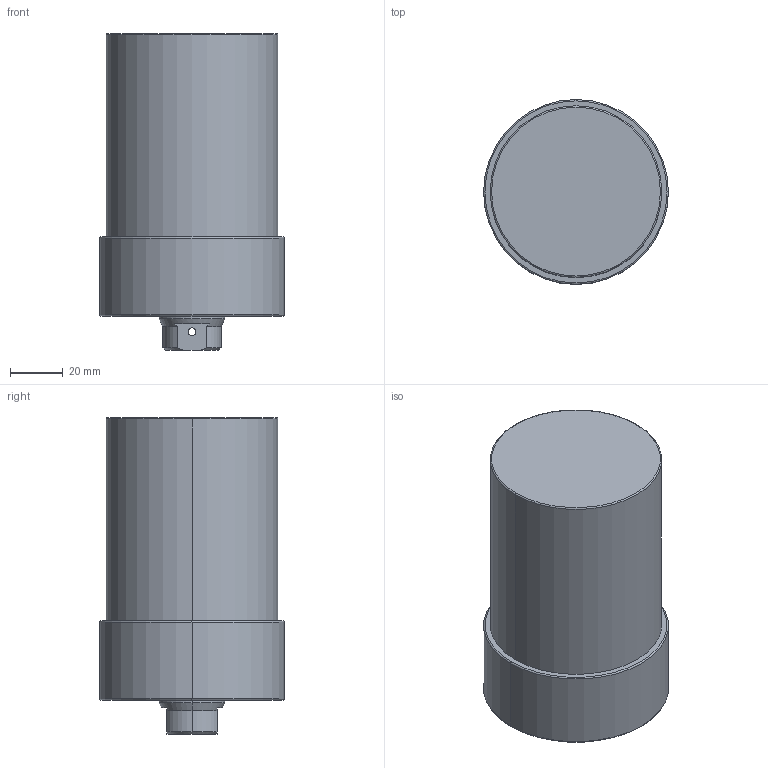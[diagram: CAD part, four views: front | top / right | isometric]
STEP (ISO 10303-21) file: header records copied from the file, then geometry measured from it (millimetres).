
FILE_DESCRIPTION (( 'STEP AP203' ), '1' );
FILE_NAME ('CLLU-065GB-060.STEP', '2020-01-06T08:47:24', ( '' ), ( '' ), 'SwSTEP 2.0', 'SolidWorks 2015', '' );
FILE_SCHEMA (( 'CONFIG_CONTROL_DESIGN' ));
Length unit declared in the file: millimetre
Products named in the file (1): CLLU-065GB-060
Bounding box: 70 x 70 x 120 mm (x, y, z)
Volume: 371437.4 mm3; surface area: 32944.1 mm2
Topology: 1 solids, 1 shells, 68 faces, 157 edges, 90 vertices
Faces by surface type: cylinder 27, cone 25, plane 10, torus 6
Entity records: 2051 total; most frequent: CARTESIAN_POINT 438, DIRECTION 352, ORIENTED_EDGE 294, AXIS2_PLACEMENT_3D 148, EDGE_CURVE 147, VERTEX_POINT 90, EDGE_LOOP 81, CIRCLE 79
